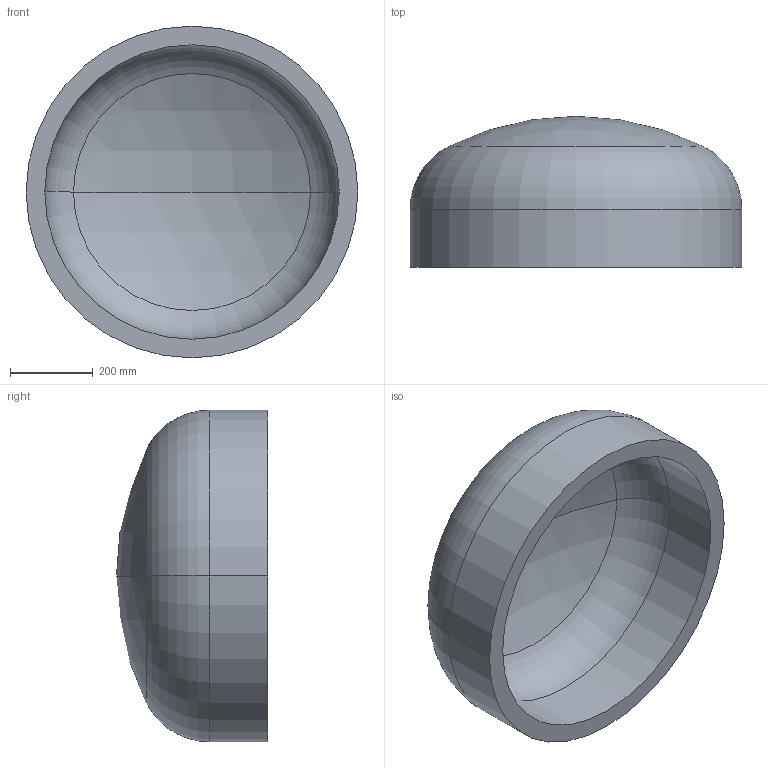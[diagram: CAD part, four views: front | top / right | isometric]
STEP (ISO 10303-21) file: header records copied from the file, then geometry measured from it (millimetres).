
FILE_DESCRIPTION (( 'STEP AP203' ), '1' );
FILE_NAME ('DIN 28013 Korbbogenform_-_Boden DIN 28013 - 800 x 140 - I - s=45.step', '2016-07-01T08:17:31', ( '' ), ( '' ), 'SwSTEP 2.0', 'SolidWorks 2013', '' );
FILE_SCHEMA (( 'CONFIG_CONTROL_DESIGN' ));
Length unit declared in the file: millimetre
Products named in the file (1): DIN 28013 Korbbogenform_-_Boden DIN 28013 - 800 x 140 - I - s=45
Bounding box: 800 x 364.21 x 800 mm (x, y, z)
Volume: 44184417.6 mm3; surface area: 2074728.3 mm2
Topology: 1 solids, 1 shells, 13 faces, 24 edges, 14 vertices
Faces by surface type: torus 4, cylinder 4, sphere 4, plane 1
Entity records: 407 total; most frequent: DIRECTION 72, CARTESIAN_POINT 52, ORIENTED_EDGE 48, AXIS2_PLACEMENT_3D 34, EDGE_CURVE 24, CIRCLE 20, EDGE_LOOP 14, VERTEX_POINT 14
